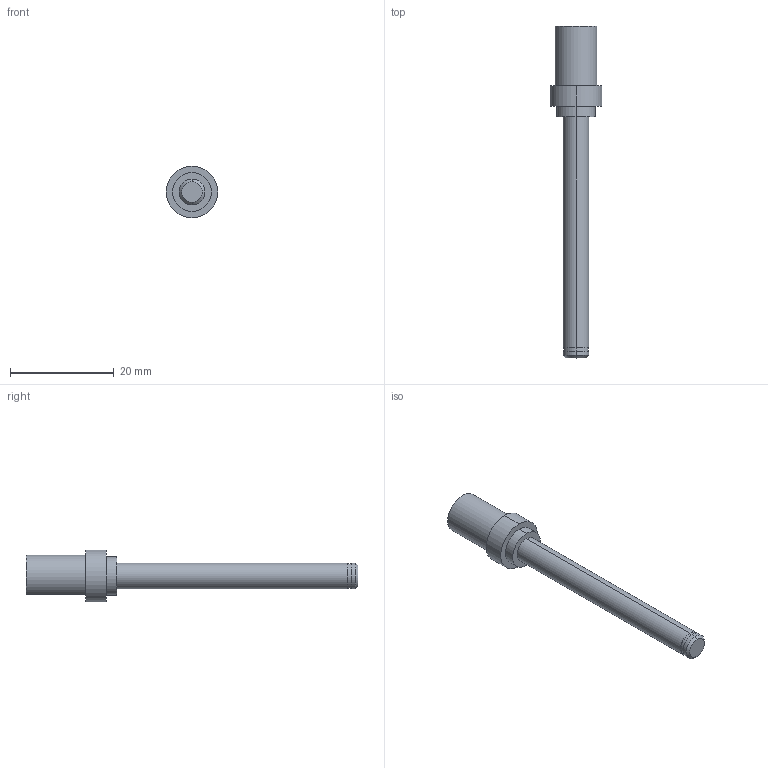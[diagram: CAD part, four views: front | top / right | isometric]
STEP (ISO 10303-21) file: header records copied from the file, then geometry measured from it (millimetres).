
FILE_DESCRIPTION (( 'STEP AP214' ), '1' );
FILE_NAME ('GZ21.33_V1絳砃謫翋雄粣2.STEP', '2021-02-28T16:59:23', ( 'hp' ), ( '' ), 'SwSTEP 2.0', 'SolidWorks 2017', '' );
FILE_SCHEMA (( 'AUTOMOTIVE_DESIGN' ));
Length unit declared in the file: millimetre
Products named in the file (1): GZ21.33_V1絳砃謫翋雄粣2
Bounding box: 10 x 64 x 10 mm (x, y, z)
Volume: 1875.6 mm3; surface area: 1345.1 mm2
Topology: 1 solids, 1 shells, 21 faces, 40 edges, 26 vertices
Faces by surface type: cylinder 11, plane 8, cone 2
Entity records: 576 total; most frequent: DIRECTION 108, CARTESIAN_POINT 88, ORIENTED_EDGE 80, AXIS2_PLACEMENT_3D 46, EDGE_CURVE 40, EDGE_LOOP 26, VERTEX_POINT 26, CIRCLE 24
